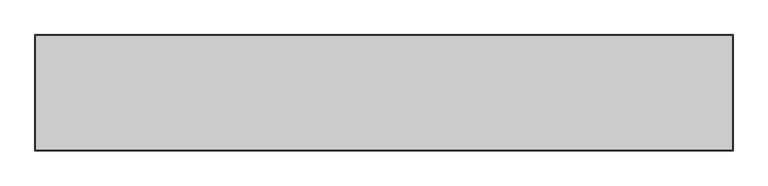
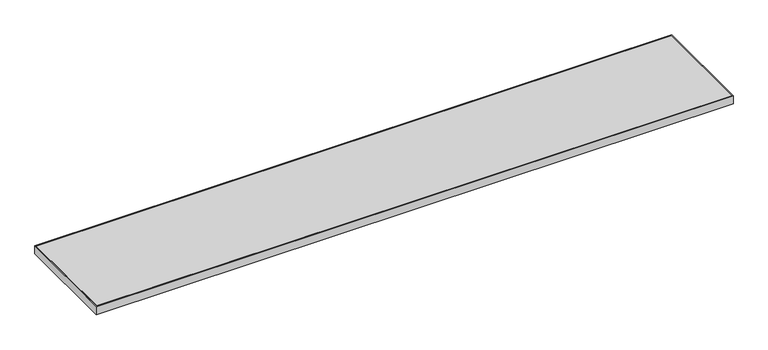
"""IFC4 building model written with IfcOpenShell, lengths in millimetres: furniture geometry, Steelcase - Universal Storage - Square Edge Top - Flush Front - Laminate : Common Top - 15D x 90W."""

from ifc_helpers import new_model, si_unit, frame, origin, place, context, project, spatial, polyline, outline, extrude, source, transform, mapped, element, save


def furniture_614c2da6(model_context):
    return source(origin(), model_context, "Body", "SweptSolid", [
        extrude(outline(polyline([(2282.9520001, -3.0479999), (2282.9520001, -377.9520001), (3.0479999, -377.9520001), (3.0479999, -3.0479999), (2282.9520001, -3.0479999)])), frame((0.0, 0.0, 680.72), z_axis=(0.0, 0.0, 1.0), x_axis=(1.0, 0.0, 0.0)), (0.0, 0.0, 1.0), 30.48),
        extrude(outline(polyline([(2286.0, 0.0), (2286.0, -381.0), (0.0, -381.0), (0.0, 0.0), (2286.0, 0.0)]), holes=[polyline([(2282.9520001, -3.0479999), (3.0479999, -3.0479999), (3.0479999, -377.9520001), (2282.9520001, -377.9520001), (2282.9520001, -3.0479999)])]), frame((0.0, 0.0, 680.72), z_axis=(0.0, 0.0, 1.0), x_axis=(1.0, 0.0, 0.0)), (0.0, 0.0, 1.0), 30.48),
    ])


if __name__ == "__main__":
    model = new_model("IFC4")
    model_context = context("Model", 3, world=origin())
    ifc_project = project(units=[si_unit("LENGTHUNIT", "METRE", prefix="MILLI")], contexts=[model_context])
    site = spatial("IfcSite", under=ifc_project)
    building = spatial("IfcBuilding", under=site)
    placement = place(None, origin())
    furniture_shape = furniture_614c2da6(model_context)
    element("IfcFurniture", 1, ObjectType="Steelcase - Universal Storage - Square Edge Top - Flush Front - Laminate : Common Top - 15D x 90W", at=placement, inside=building, context=model_context, shape_type="MappedRepresentation", body=[
        mapped(furniture_shape, transform((0.0, 0.0, 0.0), x_axis=(1.0, 0.0, 0.0), y_axis=(0.0, 1.0, 0.0), z_axis=(0.0, 0.0, 1.0))),
    ])
    save(model, "model.ifc")
